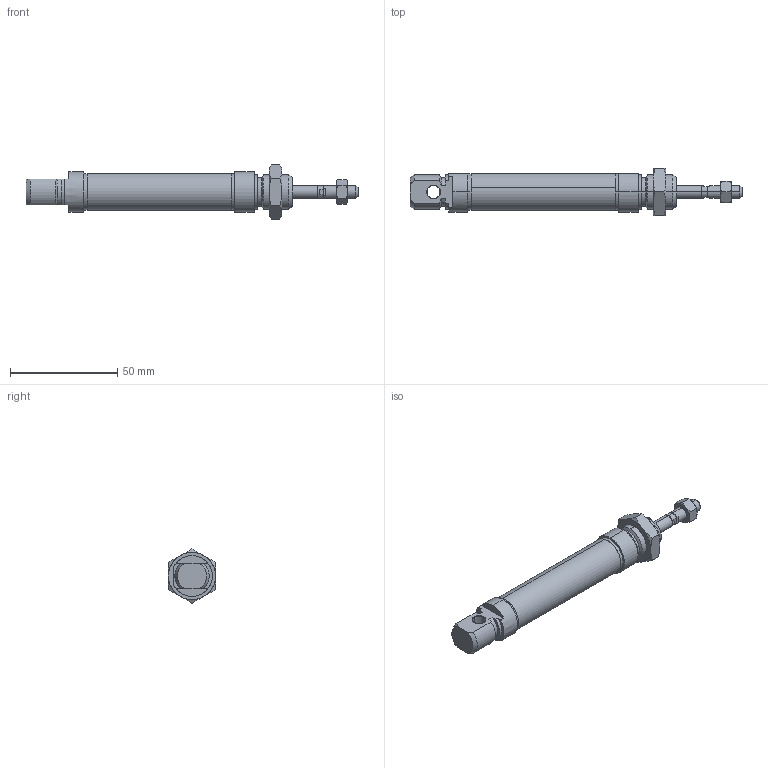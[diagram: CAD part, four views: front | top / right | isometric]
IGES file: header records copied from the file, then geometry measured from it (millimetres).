
Start section: SolidWorks IGES file using analytic representation for surfaces
Global section: file name: K:\Disegni Esecutivi\Cilindri\2_DISEGNI_cilindri_in_produzione\2_Minicilindri ISO 6432\1Minisolidworks\4_minicilindri iso 6432_16 solidworks\16cplx3d\MD016\MD016_PIENO\MD0160010A.igs; native system: SolidWorks 2012; preprocessor: SolidWorks 2012; author: Cad01; date: 130620.173421; units: millimetre
Bounding box: 155 x 22 x 25.4 mm (x, y, z)
Surface area: 10229.3 mm2 (no closed solid volume)
Topology: 0 solids, 0 shells, 143 faces, 2192 edges, 2192 vertices
Faces by surface type: revolution 94, bspline 49
